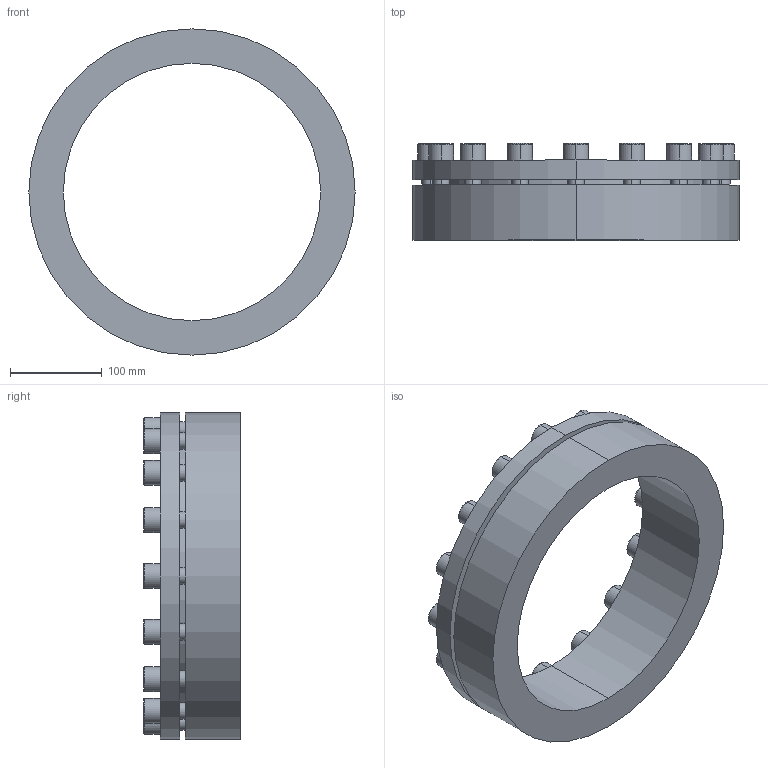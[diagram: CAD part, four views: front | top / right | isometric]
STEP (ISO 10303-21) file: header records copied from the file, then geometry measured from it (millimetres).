
FILE_DESCRIPTION (( 'STEP AP203' ), '1' );
FILE_NAME ('PL-H3 280-355.STEP', '2021-10-23T01:12:20', ( '' ), ( '' ), 'SwSTEP 2.0', 'SolidWorks 2018', '' );
FILE_SCHEMA (( 'CONFIG_CONTROL_DESIGN' ));
Length unit declared in the file: millimetre
Products named in the file (1): PL-H3 280-355
Bounding box: 355 x 105 x 355 mm (x, y, z)
Volume: 3235011.8 mm3; surface area: 336605.2 mm2
Topology: 1 solids, 1 shells, 236 faces, 568 edges, 368 vertices
Faces by surface type: plane 132, cylinder 72, torus 32
Entity records: 7029 total; most frequent: DIRECTION 1250, CARTESIAN_POINT 1173, ORIENTED_EDGE 1136, EDGE_CURVE 568, AXIS2_PLACEMENT_3D 445, VERTEX_POINT 368, LINE 360, VECTOR 360
